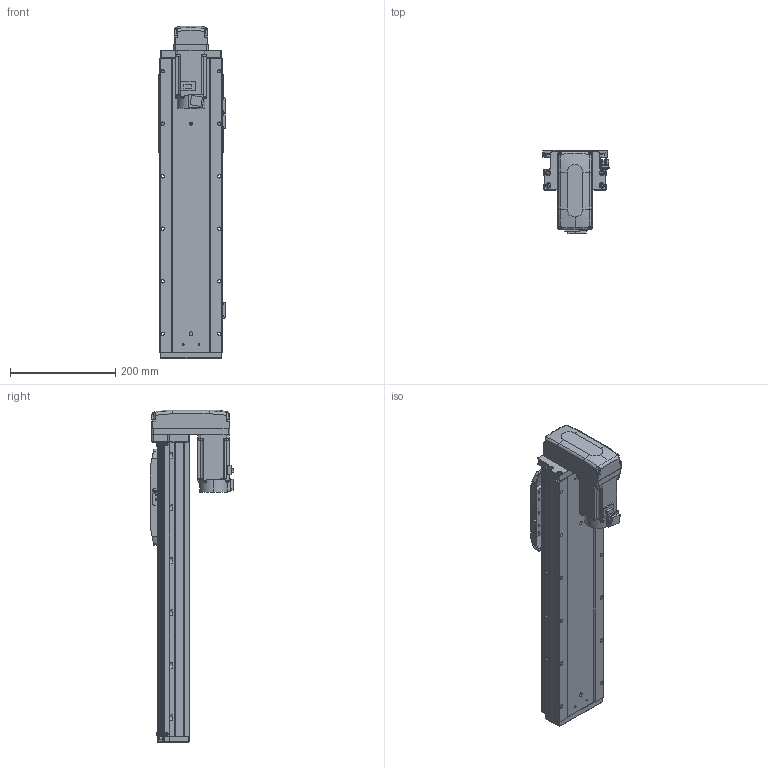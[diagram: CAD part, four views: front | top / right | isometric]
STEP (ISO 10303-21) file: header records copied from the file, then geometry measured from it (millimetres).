
FILE_DESCRIPTION (( 'STEP AP203' ), '1' );
FILE_NAME ('GTH12-350-BM-M40-C4.step', '2022-09-29T02:01:01', ( '微软用户' ), ( '微软中国' ), 'SwSTEP 2.0', 'SolidWorks 2020', '' );
FILE_SCHEMA (( 'CONFIG_CONTROL_DESIGN' ));
Length unit declared in the file: millimetre
Products named in the file (18): GTH80-022; GTH120-006; GTH80-028; CTHA86-033_M40B; GTH120-004; GTH50-023; GTH120-027-1_GTH120-027-2; GTH120-013; GTH50-024; GTH12-350-BM-M40-C4; GBT 70.1-M3℅6; GBT96.1-2002 3×0.8; GBT 70.1-M5×16; BTH-M3X5X6; GTH120-001_350; GBT 70.3-M3℅8; hg-kn43j_-s100_; GTH120-003
Assembly tree (59 placements, depth 2):
  GTH12-350-BM-M40-C4
    GTH120-001_350
    GTH120-003
    GTH120-006
    GTH120-004
    GTH120-013
    GBT 70.1-M3℅6  x14
    GBT 70.1-M5×16  x10
    GBT 70.3-M3℅8  x4
    GTH80-022
    GTH80-028  x2
    GTH50-023  x3
    GTH50-024  x3
    GBT96.1-2002 3×0.8  x6
    BTH-M3X5X6  x8
    hg-kn43j_-s100_
    CTHA86-033_M40B
    GTH120-027-1_GTH120-027-2
Bounding box: 125.7 x 159.8 x 632 mm (x, y, z)
Volume: 4907542.1 mm3; surface area: 501956.5 mm2
Topology: 61 solids, 61 shells, 2382 faces, 5533 edges, 3393 vertices
Faces by surface type: plane 1238, cylinder 676, cone 280, torus 174, sphere 8, bspline 6
Entity records: 43707 total; most frequent: CARTESIAN_POINT 7438, DIRECTION 7197, ORIENTED_EDGE 6676, EDGE_CURVE 3338, AXIS2_PLACEMENT_3D 2517, LINE 2163, VECTOR 2163, VERTEX_POINT 2114
